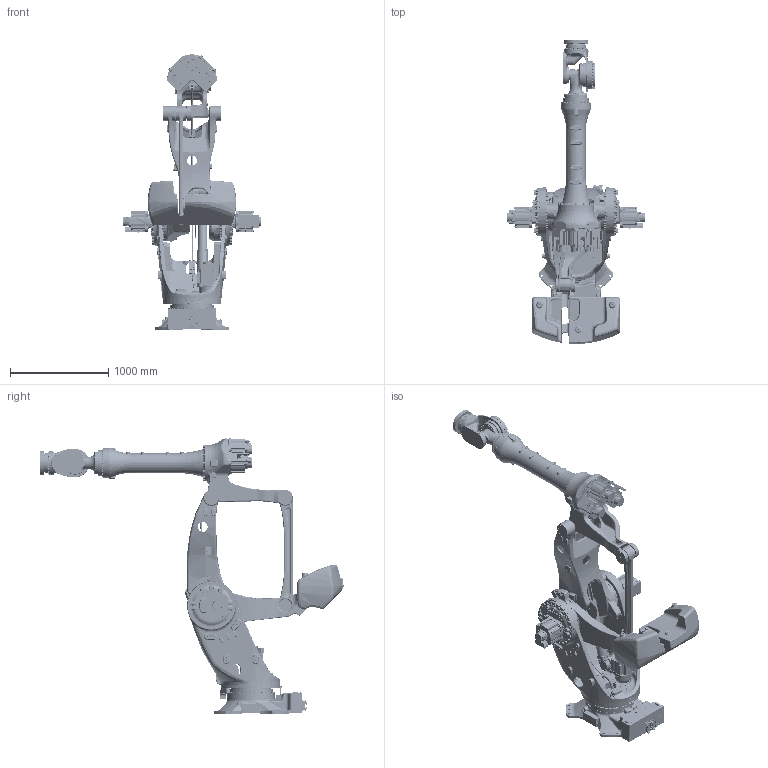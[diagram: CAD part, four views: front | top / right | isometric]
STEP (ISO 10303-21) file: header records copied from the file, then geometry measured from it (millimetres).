
FILE_DESCRIPTION(('CATIA V5 STEP Exchange','CAx-IF Rec.Pracs.--- Composite Materials ---3.4---2017-06-13'),'2;1');
FILE_NAME('D:\iwata_works\20230714_78043_mxp710_stp\stp\MXP710L-A001.stp','2023-07-14T08:00:58+00:00',('none'),('none'),'CATIA Version 5-6 Release 2020 SP4 HF11','CATIA V5 STEP AP203 v2','none');
FILE_SCHEMA(('CONFIG_CONTROL_DESIGN'));
Products named in the file (1): MXP710L-A001
Assembly tree (11 placements, depth 2):
  MXP710L-A001
    #57
    #57311
    #190747
    #279296
    #342103
    #361541
    #400936
    #406129
    #505774
    #511410
    #522922
Bounding box: 1396.6 x 3090.95 x 2800.98 mm (x, y, z)
Volume: 522125201 mm3; surface area: 19178782.3 mm2
Topology: 32 solids, 34 shells, 12190 faces, 30203 edges, 18815 vertices
Faces by surface type: cylinder 4479, plane 3463, bspline 2291, cone 994, torus 736, revolution 83, sphere 81, extrusion 63
Entity records: 537116 total; most frequent: CARTESIAN_POINT 291057, ORIENTED_EDGE 59336, DIRECTION 33151, EDGE_CURVE 29668, VERTEX_POINT 18815, AXIS2_PLACEMENT_3D 16673, EDGE_LOOP 13641, ADVANCED_FACE 12190
